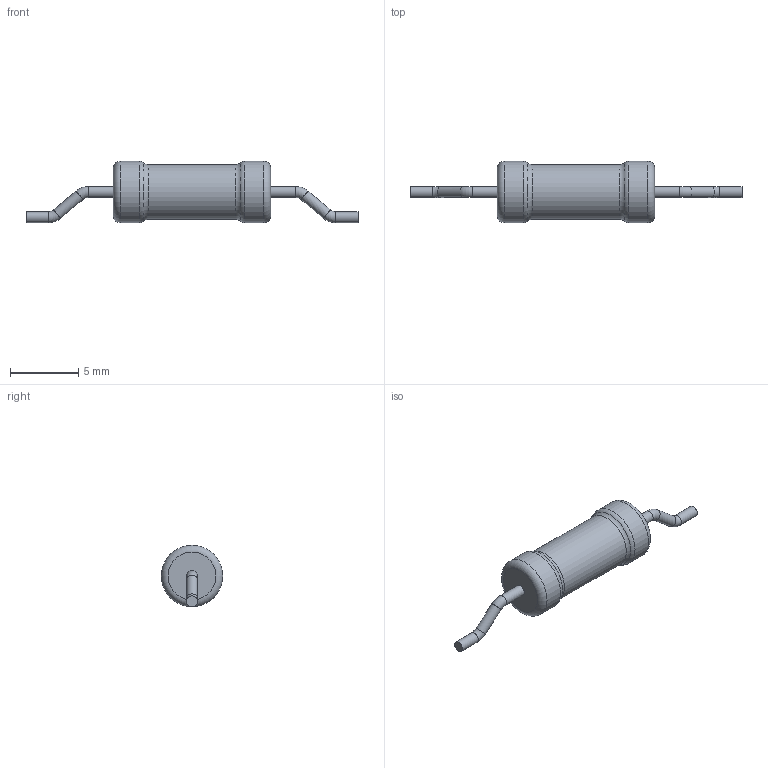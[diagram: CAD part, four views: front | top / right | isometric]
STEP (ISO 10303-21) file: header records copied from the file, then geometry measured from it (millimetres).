
FILE_DESCRIPTION(('STEP AP203'), '1');
FILE_NAME('R1-72-2M(3)', '', ('UNSPECIFIED'), ('UNSPECIFIED'), 'ASCON STEP Converter 1.6', 'ASCON Math Kernel', '');
FILE_SCHEMA(('CONFIG_CONTROL_DESIGN'));
Length unit declared in the file: millimetre
Bounding box: 24.3 x 4.5 x 4.5 mm (x, y, z)
Volume: 164.9 mm3; surface area: 213.9 mm2
Topology: 1 solids, 1 shells, 23 faces, 41 edges, 22 vertices
Faces by surface type: torus 10, cylinder 9, plane 4
Full cylindrical faces by diameter (mm): 0.8 x6, 4 x1, 4.5 x2
Entity records: 682 total; most frequent: DIRECTION 92, CARTESIAN_POINT 68, AXIS2_PLACEMENT_3D 46, EDGE_LOOP 44, ORIENTED_EDGE 44, FACE_OUTER_BOUND 38, COLOUR_RGB 24, FILL_AREA_STYLE_COLOUR 24
